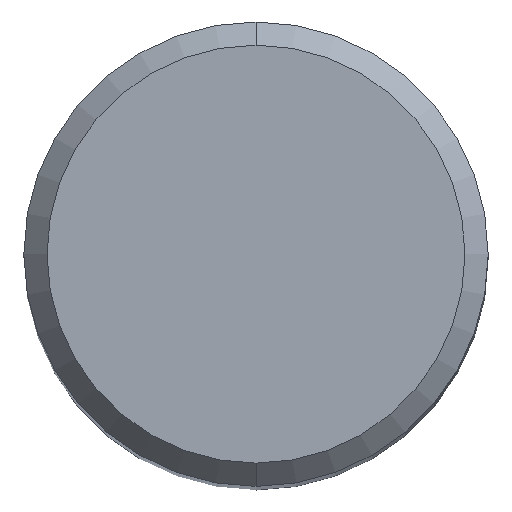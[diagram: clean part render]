
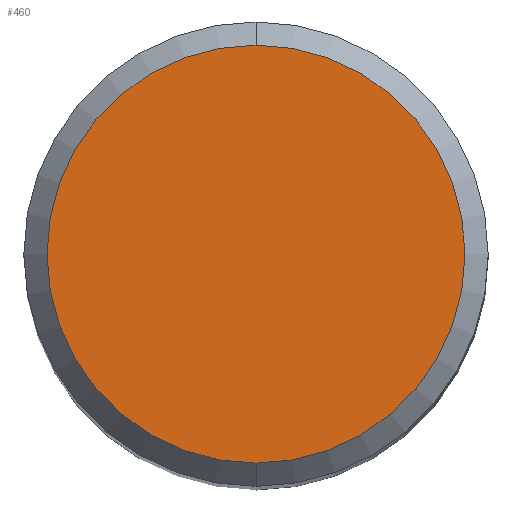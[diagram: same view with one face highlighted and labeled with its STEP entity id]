
A CAD part, top view. The second image highlights one B-rep face of the part: STEP entity #460.
In plain terms, the highlighted planar face has unit normal (0, 0, 1).
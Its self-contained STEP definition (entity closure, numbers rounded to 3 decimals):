
#184=EDGE_CURVE('',#188,#442,#493,.T.);
#188=VERTEX_POINT('',#497);
#416=EDGE_CURVE('',#442,#188,#745,.T.);
#442=VERTEX_POINT('',#775);
#460=ADVANCED_FACE('',(#798),#799,.T.);
#493=CIRCLE('',#831,4.5);
#497=CARTESIAN_POINT('',(0.,-4.5,0.0));
#745=CIRCLE('',#1404,4.5);
#775=CARTESIAN_POINT('',(0.0,4.5,0.0));
#798=FACE_OUTER_BOUND('',#1474,.T.);
#799=PLANE('',#1475);
#831=AXIS2_PLACEMENT_3D('',#1491,#1492,#1493);
#1404=AXIS2_PLACEMENT_3D('',#1760,#1761,#1762);
#1474=EDGE_LOOP('',(#1838,#1839));
#1475=AXIS2_PLACEMENT_3D('',#1840,#1841,#1842);
#1491=CARTESIAN_POINT('',(0.0,0.0,0.0));
#1492=DIRECTION('',(0.0,0.0,-1.0));
#1493=DIRECTION('',(0.0,1.0,0.0));
#1760=CARTESIAN_POINT('',(0.0,0.0,0.0));
#1761=DIRECTION('',(0.0,0.0,-1.0));
#1762=DIRECTION('',(0.0,1.0,0.0));
#1838=ORIENTED_EDGE('',*,*,#416,.F.);
#1839=ORIENTED_EDGE('',*,*,#184,.F.);
#1840=CARTESIAN_POINT('',(0.0,2.25,0.0));
#1841=DIRECTION('',(-0.0,0.0,1.0));
#1842=DIRECTION('',(0.0,-1.0,0.0));
